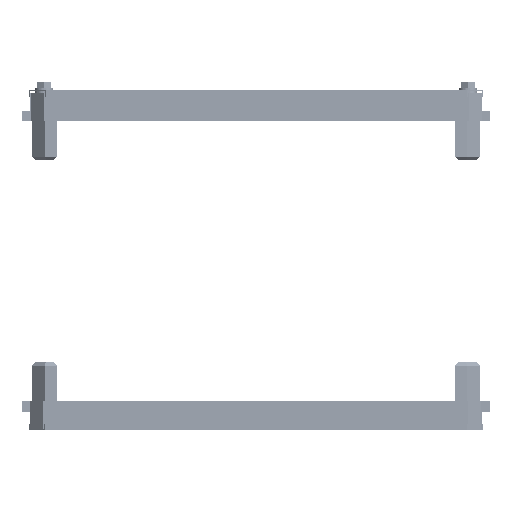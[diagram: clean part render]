
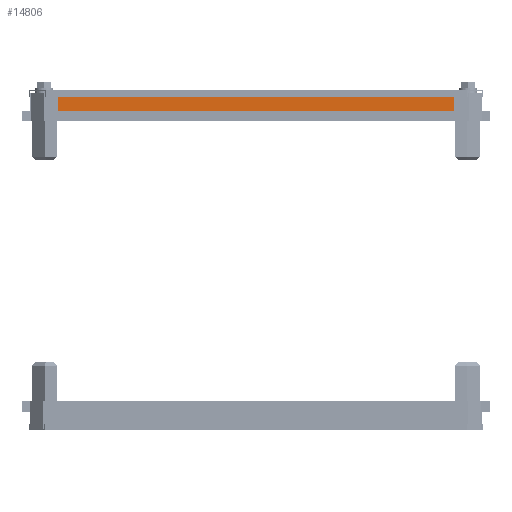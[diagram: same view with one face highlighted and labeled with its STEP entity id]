
A CAD part, left-side view. The second image highlights one B-rep face of the part: STEP entity #14806.
In plain terms, the highlighted planar face has unit normal (-1, 0, 0).
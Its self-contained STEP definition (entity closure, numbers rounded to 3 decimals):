
#231 = LINE ( 'NONE', #156682, #80342 ) ;
#591 = CARTESIAN_POINT ( 'NONE',  ( -789.55, -345.6, 409.7 ) ) ;
#11414 = DIRECTION ( 'NONE',  ( 0., 0., 1. ) ) ;
#14806 = ADVANCED_FACE ( 'NONE', ( #179521 ), #163641, .F. ) ;
#15080 = LINE ( 'NONE', #54513, #114367 ) ;
#20795 = DIRECTION ( 'NONE',  ( 0., 1., 0. ) ) ;
#35770 = LINE ( 'NONE', #149138, #62068 ) ;
#37139 = CARTESIAN_POINT ( 'NONE',  ( -789.55, 162.4, 409.7 ) ) ;
#37396 = EDGE_CURVE ( 'NONE', #177781, #179067, #168376, .T. ) ;
#43349 = CARTESIAN_POINT ( 'NONE',  ( -789.55, -345.6, 430.9 ) ) ;
#46283 = CARTESIAN_POINT ( 'NONE',  ( -789.55, 162.4, 430.9 ) ) ;
#50111 = EDGE_CURVE ( 'NONE', #62039, #140253, #15080, .T. ) ;
#54513 = CARTESIAN_POINT ( 'NONE',  ( -789.55, 162.4, 409.7 ) ) ;
#62039 = VERTEX_POINT ( 'NONE', #114674 ) ;
#62068 = VECTOR ( 'NONE', #20795, 1000. ) ;
#67204 = EDGE_LOOP ( 'NONE', ( #166821, #179577, #87147, #161535 ) ) ;
#72739 = DIRECTION ( 'NONE',  ( 0., 0., 1. ) ) ;
#73342 = VECTOR ( 'NONE', #72739, 1000. ) ;
#80342 = VECTOR ( 'NONE', #127680, 1000. ) ;
#87147 = ORIENTED_EDGE ( 'NONE', *, *, #50111, .F. ) ;
#91239 = CARTESIAN_POINT ( 'NONE',  ( -789.55, -345.6, 408.4 ) ) ;
#94306 = DIRECTION ( 'NONE',  ( 1., 0., 0. ) ) ;
#114367 = VECTOR ( 'NONE', #11414, 1000. ) ;
#114674 = CARTESIAN_POINT ( 'NONE',  ( -789.55, 162.4, 408.4 ) ) ;
#127680 = DIRECTION ( 'NONE',  ( 0., -1., 0. ) ) ;
#135660 = EDGE_CURVE ( 'NONE', #177781, #62039, #35770, .T. ) ;
#140253 = VERTEX_POINT ( 'NONE', #46283 ) ;
#147719 = DIRECTION ( 'NONE',  ( 0., -1., 0. ) ) ;
#149138 = CARTESIAN_POINT ( 'NONE',  ( -789.55, 162.4, 408.4 ) ) ;
#156682 = CARTESIAN_POINT ( 'NONE',  ( -789.55, 162.4, 430.9 ) ) ;
#161535 = ORIENTED_EDGE ( 'NONE', *, *, #135660, .F. ) ;
#163641 = PLANE ( 'NONE',  #179948 ) ;
#166821 = ORIENTED_EDGE ( 'NONE', *, *, #37396, .T. ) ;
#168376 = LINE ( 'NONE', #591, #73342 ) ;
#170623 = EDGE_CURVE ( 'NONE', #140253, #179067, #231, .T. ) ;
#177781 = VERTEX_POINT ( 'NONE', #91239 ) ;
#179067 = VERTEX_POINT ( 'NONE', #43349 ) ;
#179521 = FACE_OUTER_BOUND ( 'NONE', #67204, .T. ) ;
#179577 = ORIENTED_EDGE ( 'NONE', *, *, #170623, .F. ) ;
#179948 = AXIS2_PLACEMENT_3D ( 'NONE', #37139, #94306, #147719 ) ;
